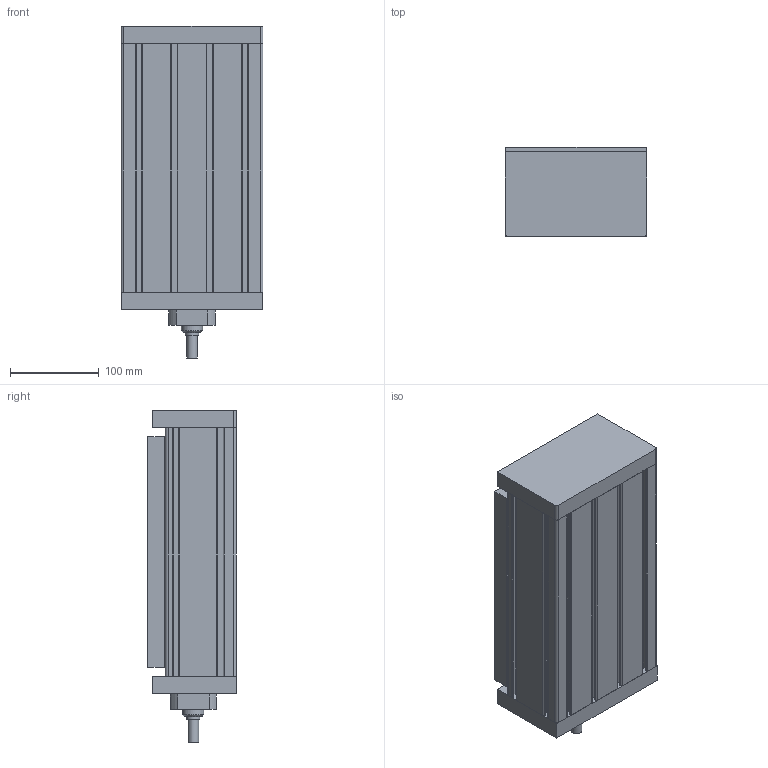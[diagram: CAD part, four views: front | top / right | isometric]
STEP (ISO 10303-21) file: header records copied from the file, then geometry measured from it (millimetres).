
FILE_DESCRIPTION((''),'2;1');
FILE_NAME('C:\Users\disegnatore3\Desktop\alberto_3d\MODELLI PER SITO WEB\ASSI\ML160\ML160 PROV-24\FORMATO CAD\ML160PROV-24.stp','2016-09-12T14:23:55',('disegnatore3'),(''),'Autodesk Inventor 2012','Autodesk Inventor 2012','');
FILE_SCHEMA(('AUTOMOTIVE_DESIGN { 1 0 10303 214 1 1 1 1 }'));
Length unit declared in the file: millimetre
Products named in the file (5): ML160PROV-24; PR160PRO; CR160PRO-24; TR160PROV; TM160PROV
Assembly tree (4 placements, depth 2):
  ML160PROV-24
    PR160PRO
    CR160PRO-24
    TR160PROV
    TM160PROV
Bounding box: 160 x 100 x 374.1 mm (x, y, z)
Volume: 4810748.6 mm3; surface area: 405019.6 mm2
Topology: 4 solids, 4 shells, 166 faces, 473 edges, 319 vertices
Faces by surface type: plane 96, cylinder 69, cone 1
Full cylindrical faces by diameter (mm): 6.647 x12, 12 x1, 15 x1, 24 x1
Entity records: 5463 total; most frequent: DIRECTION 934, CARTESIAN_POINT 927, ORIENTED_EDGE 890, EDGE_CURVE 445, AXIS2_PLACEMENT_3D 314, VERTEX_POINT 307, VECTOR 306, LINE 306
